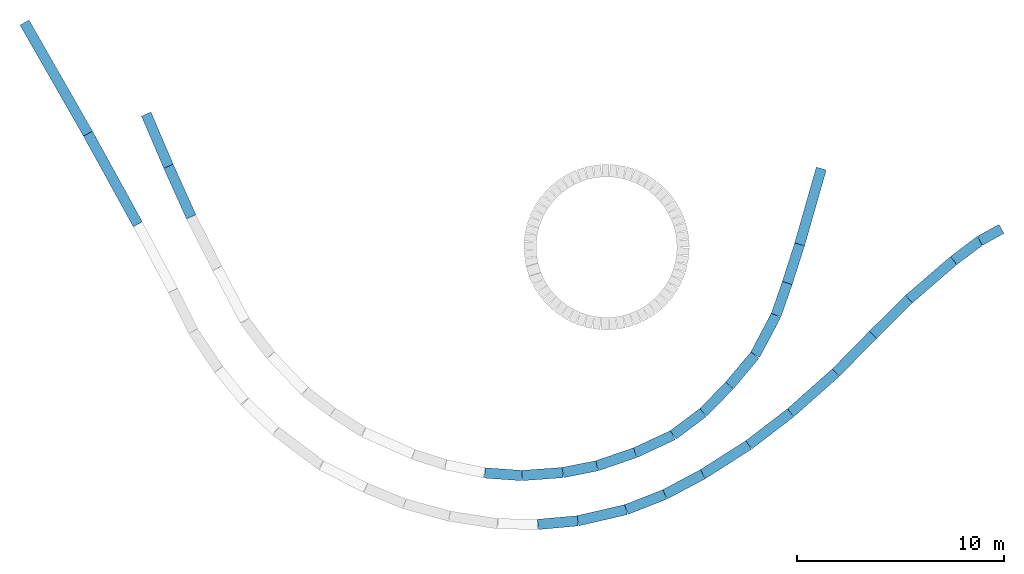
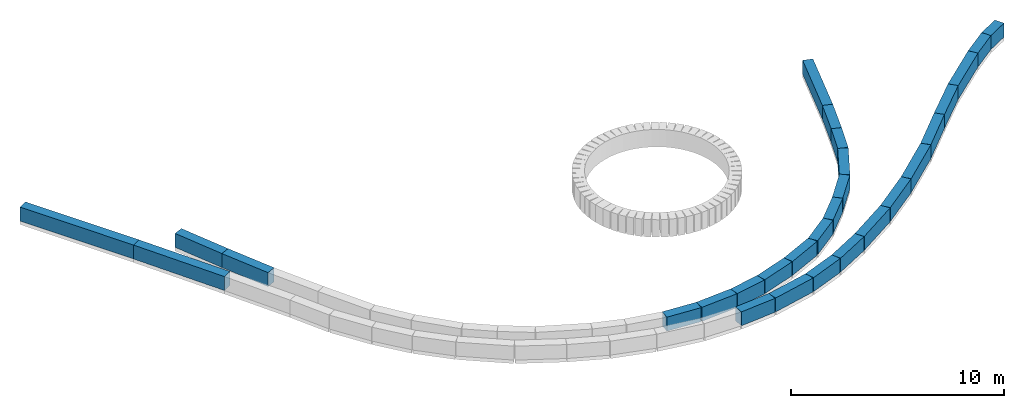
# One storey, part 3 of 3: 28 walls.
"""IFC2X3 building model written with IfcOpenShell, lengths in millimetres."""

from ifc_helpers import new_model, entity, si_unit, converted_unit, direction, origin, origin_with_axes, place, context, project, spatial, faceted_brep, element, save


model = new_model("IFC2X3")

# Units and contexts
model_context = context("Model", 3, precision=1e-05, world=origin(), true_north=direction((0.0, 1.0, 0.0)))
ifc_project = project(units=[si_unit("LENGTHUNIT", "METRE", prefix="MILLI"), si_unit("AREAUNIT", "SQUARE_METRE"), si_unit("VOLUMEUNIT", "CUBIC_METRE"), converted_unit("PLANEANGLEUNIT", "DEGREE", entity("IfcPlaneAngleMeasure", 0.01745), si_unit("PLANEANGLEUNIT", "RADIAN"), dimensions=[0, 0, 0, 0, 0, 0, 0]), si_unit("SOLIDANGLEUNIT", "STERADIAN"), si_unit("MASSUNIT", "GRAM"), si_unit("TIMEUNIT", "SECOND"), si_unit("THERMODYNAMICTEMPERATUREUNIT", "DEGREE_CELSIUS"), si_unit("LUMINOUSINTENSITYUNIT", "LUMEN")], contexts=[model_context])

# Site, building, storey
site_placement = place(None, origin_with_axes())
site = spatial("IfcSite", under=ifc_project, at=site_placement, Name="Default Site", CompositionType="ELEMENT")
building_placement = place(site_placement, origin_with_axes())
building = spatial("IfcBuilding", under=site, at=building_placement, Name="Default Building", CompositionType="ELEMENT")
storey_placement = place(building_placement, origin_with_axes())
storey = spatial("IfcBuildingStorey", under=building, at=storey_placement, Name="Fundação", CompositionType="ELEMENT", Elevation=0.0)

# Walls
wall_1_placement = place(storey_placement, origin_with_axes())
element("IfcWallStandardCase", 1, at=wall_1_placement, inside=storey, Name="IfcWallStandardCase - IfcWallStandardCase - C25 (50)", context=model_context, shape_type="Brep", body=[
    faceted_brep([(-13324.97587996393, 5962.893236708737, -1350.000013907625), (-12247.97585802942, 3437.893260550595, -1350.000013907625), (-12247.97585802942, 3437.893260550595, -2150.000025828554), (-13324.97587996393, 5962.893236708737, -2150.000025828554), (-12707.8868468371, 3241.725195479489, -1350.000013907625), (-12707.8868468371, 3241.725195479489, -2150.000025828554), (-13784.88686877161, 5766.725171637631, -1350.000013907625), (-13784.88686877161, 5766.725171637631, -2150.000025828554)], [[[0, 1, 2]], [[0, 2, 3]], [[1, 4, 5]], [[1, 5, 2]], [[4, 6, 7]], [[4, 7, 5]], [[6, 0, 3]], [[6, 3, 7]], [[2, 5, 7]], [[2, 7, 3]], [[0, 6, 4]], [[0, 4, 1]]]),
])
wall_2_placement = place(storey_placement, origin_with_axes())
element("IfcWallStandardCase", 2, at=wall_2_placement, inside=storey, Name="IfcWallStandardCase - IfcWallStandardCase - C26 (50)", context=model_context, shape_type="Brep", body=[
    faceted_brep([(-12249.50976963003, 3441.396249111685, -1350.000013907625), (-11154.5097410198, 1004.396212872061, -1350.000013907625), (-11154.5097410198, 1004.396212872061, -2150.000025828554), (-12249.50976963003, 3441.396249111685, -2150.000025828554), (-11610.58600540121, 799.4706757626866, -1350.000013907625), (-11610.58600540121, 799.4706757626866, -2150.000025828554), (-12705.58603401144, 3236.47071200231, -1350.000013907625), (-12705.58603401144, 3236.47071200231, -2150.000025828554)], [[[0, 1, 2]], [[0, 2, 3]], [[1, 4, 5]], [[1, 5, 2]], [[4, 6, 7]], [[4, 7, 5]], [[6, 0, 3]], [[6, 3, 7]], [[2, 5, 7]], [[2, 7, 3]], [[0, 6, 4]], [[0, 4, 1]]]),
])
wall_3_placement = place(storey_placement, origin_with_axes())
element("IfcWallStandardCase", 3, at=wall_3_placement, inside=storey, Name="IfcWallStandardCase - IfcWallStandardCase - C36 (50)", context=model_context, shape_type="Brep", body=[
    faceted_brep([(2829.221978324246, -11231.07603361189, -1350.000013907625), (4618.221953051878, -11358.07603766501, -1350.000013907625), (4618.221953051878, -11358.07603766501, -2150.000025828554), (2829.221978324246, -11231.07603361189, -2150.000025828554), (4582.816376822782, -11856.82091285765, -1350.000013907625), (4582.816376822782, -11856.82091285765, -2150.000025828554), (2793.816402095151, -11729.82090880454, -1350.000013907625), (2793.816402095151, -11729.82090880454, -2150.000025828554)], [[[0, 1, 2]], [[0, 2, 3]], [[1, 4, 5]], [[1, 5, 2]], [[4, 6, 7]], [[4, 7, 5]], [[6, 0, 3]], [[6, 3, 7]], [[2, 5, 7]], [[2, 7, 3]], [[0, 6, 4]], [[0, 4, 1]]]),
])
wall_4_placement = place(storey_placement, origin_with_axes())
element("IfcWallStandardCase", 4, at=wall_4_placement, inside=storey, Name="IfcWallStandardCase - IfcWallStandardCase - C45 (50)", context=model_context, shape_type="Brep", body=[
    faceted_brep([(16652.20301712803, -3773.747407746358, -1350.000013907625), (17194.20301656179, -2218.747400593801, -1350.000013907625), (17194.20301656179, -2218.747400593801, -2150.000025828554), (16652.20301712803, -3773.747407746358, -2150.000025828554), (17666.34481514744, -2383.313857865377, -1350.000013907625), (17666.34481514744, -2383.313857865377, -2150.000025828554), (17124.34481571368, -3938.313865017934, -1350.000013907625), (17124.34481571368, -3938.313865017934, -2150.000025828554)], [[[0, 1, 2]], [[0, 2, 3]], [[1, 4, 5]], [[1, 5, 2]], [[4, 6, 7]], [[4, 7, 5]], [[6, 0, 3]], [[6, 3, 7]], [[2, 5, 7]], [[2, 7, 3]], [[0, 6, 4]], [[0, 4, 1]]]),
])
wall_5_placement = place(storey_placement, origin_with_axes())
element("IfcWallStandardCase", 5, at=wall_5_placement, inside=storey, Name="IfcWallStandardCase - IfcWallStandardCase - C39 (50)", context=model_context, shape_type="Brep", body=[
    faceted_brep([(8154.124117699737, -10898.40908544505, -1350.000013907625), (9998.12403997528, -10265.40910648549, -1350.000013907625), (9998.12403997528, -10265.40910648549, -2150.000025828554), (8154.124117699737, -10898.40908544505, -2150.000025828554), (10160.46319088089, -10738.32133608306, -1350.000013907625), (10160.46319088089, -10738.32133608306, -2150.000025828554), (8316.463268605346, -11371.32131504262, -1350.000013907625), (8316.463268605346, -11371.32131504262, -2150.000025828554)], [[[0, 1, 2]], [[0, 2, 3]], [[1, 4, 5]], [[1, 5, 2]], [[4, 6, 7]], [[4, 7, 5]], [[6, 0, 3]], [[6, 3, 7]], [[2, 5, 7]], [[2, 7, 3]], [[0, 6, 4]], [[0, 4, 1]]]),
])
wall_6_placement = place(storey_placement, origin_with_axes())
element("IfcWallStandardCase", 6, at=wall_6_placement, inside=storey, Name="IfcWallStandardCase - IfcWallStandardCase - C37 (50)", context=model_context, shape_type="Brep", body=[
    faceted_brep([(4589.378680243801, -11358.11355692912, -1350.000013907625), (6559.378649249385, -11213.11356110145, -1350.000013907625), (6559.378649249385, -11213.11356110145, -2150.000025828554), (4589.378680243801, -11358.11355692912, -2150.000025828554), (6596.081341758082, -11711.76463348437, -1350.000013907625), (6596.081341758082, -11711.76463348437, -2150.000025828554), (4626.081372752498, -11856.76462931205, -1350.000013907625), (4626.081372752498, -11856.76462931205, -2150.000025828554)], [[[0, 1, 2]], [[0, 2, 3]], [[1, 4, 5]], [[1, 5, 2]], [[4, 6, 7]], [[4, 7, 5]], [[6, 0, 3]], [[6, 3, 7]], [[2, 5, 7]], [[2, 7, 3]], [[0, 6, 4]], [[0, 4, 1]]]),
])
wall_7_placement = place(storey_placement, origin_with_axes())
element("IfcWallStandardCase", 7, at=wall_7_placement, inside=storey, Name="IfcWallStandardCase - IfcWallStandardCase - C38 (50)", context=model_context, shape_type="Brep", body=[
    faceted_brep([(6535.295361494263, -11216.36663684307, -1350.000013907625), (8180.295342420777, -10891.36663386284, -1350.000013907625), (8180.295342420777, -10891.36663386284, -2150.000025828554), (6535.295361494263, -11216.36663684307, -2150.000025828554), (8277.206295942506, -11381.88501009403, -1350.000013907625), (8277.206295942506, -11381.88501009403, -2150.000025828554), (6632.206315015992, -11706.88501307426, -1350.000013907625), (6632.206315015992, -11706.88501307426, -2150.000025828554)], [[[0, 1, 2]], [[0, 2, 3]], [[1, 4, 5]], [[1, 5, 2]], [[4, 6, 7]], [[4, 7, 5]], [[6, 0, 3]], [[6, 3, 7]], [[2, 5, 7]], [[2, 7, 3]], [[0, 6, 4]], [[0, 4, 1]]]),
])
wall_8_placement = place(storey_placement, origin_with_axes())
element("IfcWallStandardCase", 8, at=wall_8_placement, inside=storey, Name="IfcWallStandardCase - IfcWallStandardCase - C40 (50)", context=model_context, shape_type="Brep", body=[
    faceted_brep([(9978.70025553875, -10273.23595391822, -1350.000013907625), (11803.70030322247, -9424.235976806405, -1350.000013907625), (11803.70030322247, -9424.235976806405, -2150.000025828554), (9978.70025553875, -10273.23595391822, -2150.000025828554), (12014.59894099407, -9877.581037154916, -1350.000013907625), (12014.59894099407, -9877.581037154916, -2150.000025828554), (10189.59889331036, -10726.58101426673, -1350.000013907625), (10189.59889331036, -10726.58101426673, -2150.000025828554)], [[[0, 1, 2]], [[0, 2, 3]], [[1, 4, 5]], [[1, 5, 2]], [[4, 6, 7]], [[4, 7, 5]], [[6, 0, 3]], [[6, 3, 7]], [[2, 5, 7]], [[2, 7, 3]], [[0, 6, 4]], [[0, 4, 1]]]),
])
wall_9_placement = place(storey_placement, origin_with_axes())
element("IfcWallStandardCase", 9, at=wall_9_placement, inside=storey, Name="IfcWallStandardCase - IfcWallStandardCase - C47 (50)", context=model_context, shape_type="Brep", body=[
    faceted_brep([(17787.74702469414, -368.6574443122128, -1350.000013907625), (18835.74703256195, 3301.342512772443, -1350.000013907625), (18835.74703256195, 3301.342512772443, -2150.000025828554), (17787.74702469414, -368.6574443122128, -2150.000025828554), (19316.52879635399, 3164.051200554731, -1350.000013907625), (19316.52879635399, 3164.051200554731, -2150.000025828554), (18268.52878848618, -505.9487565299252, -1350.000013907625), (18268.52878848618, -505.9487565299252, -2150.000025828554)], [[[0, 1, 2]], [[0, 2, 3]], [[1, 4, 5]], [[1, 5, 2]], [[4, 6, 7]], [[4, 7, 5]], [[6, 0, 3]], [[6, 3, 7]], [[2, 5, 7]], [[2, 7, 3]], [[0, 6, 4]], [[0, 4, 1]]]),
])
wall_10_placement = place(storey_placement, origin_with_axes())
element("IfcWallStandardCase", 10, at=wall_10_placement, inside=storey, Name="IfcWallStandardCase - IfcWallStandardCase - C41 (50)", context=model_context, shape_type="Brep", body=[
    faceted_brep([(11768.02433357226, -9445.600548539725, -1350.000013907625), (13214.0243135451, -8360.600540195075, -1350.000013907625), (13214.0243135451, -8360.600540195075, -2150.000025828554), (11768.02433357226, -9445.600548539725, -2150.000025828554), (13514.11283836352, -8760.53414658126, -1350.000013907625), (13514.11283836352, -8760.53414658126, -2150.000025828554), (12068.11285839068, -9845.53415492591, -1350.000013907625), (12068.11285839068, -9845.53415492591, -2150.000025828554)], [[[0, 1, 2]], [[0, 2, 3]], [[1, 4, 5]], [[1, 5, 2]], [[4, 6, 7]], [[4, 7, 5]], [[6, 0, 3]], [[6, 3, 7]], [[2, 5, 7]], [[2, 7, 3]], [[0, 6, 4]], [[0, 4, 1]]]),
])
wall_11_placement = place(storey_placement, origin_with_axes())
element("IfcWallStandardCase", 11, at=wall_11_placement, inside=storey, Name="IfcWallStandardCase - IfcWallStandardCase - C44 (50)", context=model_context, shape_type="Brep", body=[
    faceted_brep([(15652.21243733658, -5662.166120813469, -1350.000013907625), (16664.21243185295, -3746.166112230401, -1350.000013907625), (16664.21243185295, -3746.166112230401, -2150.000025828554), (15652.21243733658, -5662.166120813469, -2150.000025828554), (17106.33068913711, -3979.685785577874, -1350.000013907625), (17106.33068913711, -3979.685785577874, -2150.000025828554), (16094.33069462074, -5895.685794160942, -1350.000013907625), (16094.33069462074, -5895.685794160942, -2150.000025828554)], [[[0, 1, 2]], [[0, 2, 3]], [[1, 4, 5]], [[1, 5, 2]], [[4, 6, 7]], [[4, 7, 5]], [[6, 0, 3]], [[6, 3, 7]], [[2, 5, 7]], [[2, 7, 3]], [[0, 6, 4]], [[0, 4, 1]]]),
])
wall_12_placement = place(storey_placement, origin_with_axes())
element("IfcWallStandardCase", 12, at=wall_12_placement, inside=storey, Name="IfcWallStandardCase - IfcWallStandardCase - C43 (50)", context=model_context, shape_type="Brep", body=[
    faceted_brep([(14446.87962937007, -7090.982206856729, -1350.000013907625), (15675.87960171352, -5626.98222020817, -1350.000013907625), (15675.87960171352, -5626.98222020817, -2150.000025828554), (14446.87962937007, -7090.982206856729, -2150.000025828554), (16058.82990765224, -5948.461659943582, -1350.000013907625), (16058.82990765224, -5948.461659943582, -2150.000025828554), (14829.82993530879, -7412.461646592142, -1350.000013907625), (14829.82993530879, -7412.461646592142, -2150.000025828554)], [[[0, 1, 2]], [[0, 2, 3]], [[1, 4, 5]], [[1, 5, 2]], [[4, 6, 7]], [[4, 7, 5]], [[6, 0, 3]], [[6, 3, 7]], [[2, 5, 7]], [[2, 7, 3]], [[0, 6, 4]], [[0, 4, 1]]]),
])
wall_13_placement = place(storey_placement, origin_with_axes())
element("IfcWallStandardCase", 13, at=wall_13_placement, inside=storey, Name="IfcWallStandardCase - IfcWallStandardCase - C42 (50)", context=model_context, shape_type="Brep", body=[
    faceted_brep([(13190.72347358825, -8381.093826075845, -1350.000013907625), (14456.72347621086, -7080.093827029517, -1350.000013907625), (14456.72347621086, -7080.093827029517, -2150.000025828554), (13190.72347358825, -8381.093826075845, -2150.000025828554), (14815.06412700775, -7428.794231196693, -1350.000013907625), (14815.06412700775, -7428.794231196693, -2150.000025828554), (13549.06412438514, -8729.794230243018, -1350.000013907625), (13549.06412438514, -8729.794230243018, -2150.000025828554)], [[[0, 1, 2]], [[0, 2, 3]], [[1, 4, 5]], [[1, 5, 2]], [[4, 6, 7]], [[4, 7, 5]], [[6, 0, 3]], [[6, 3, 7]], [[2, 5, 7]], [[2, 7, 3]], [[0, 6, 4]], [[0, 4, 1]]]),
])
wall_14_placement = place(storey_placement, origin_with_axes())
element("IfcWallStandardCase", 14, at=wall_14_placement, inside=storey, Name="IfcWallStandardCase - IfcWallStandardCase - C46 (50)", context=model_context, shape_type="Brep", body=[
    faceted_brep([(17192.61894178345, -2223.481495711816, -1350.000013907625), (17789.61891856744, -362.4814942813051, -1350.000013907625), (17789.61891856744, -362.4814942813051, -2150.000025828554), (17192.61894178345, -2223.481495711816, -2150.000025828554), (18265.72093915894, -515.2127340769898, -1350.000013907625), (18265.72093915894, -515.2127340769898, -2150.000025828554), (17668.72096237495, -2376.212735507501, -1350.000013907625), (17668.72096237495, -2376.212735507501, -2150.000025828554)], [[[0, 1, 2]], [[0, 2, 3]], [[1, 4, 5]], [[1, 5, 2]], [[4, 6, 7]], [[4, 7, 5]], [[6, 0, 3]], [[6, 3, 7]], [[2, 5, 7]], [[2, 7, 3]], [[0, 6, 4]], [[0, 4, 1]]]),
])
wall_15_placement = place(storey_placement, origin_with_axes())
element("IfcWallStandardCase", 15, at=wall_15_placement, inside=storey, Name="IfcWallStandardCase - IfcWallStandardCase - C85 (50)", context=model_context, shape_type="Brep", body=[
    faceted_brep([(5358.990034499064, -13720.3919056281, -450.0000043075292), (7276.990017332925, -13546.39191063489, -450.0000043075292), (7276.990017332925, -13546.39191063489, -1250.000016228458), (5358.990034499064, -13720.3919056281, -1250.000016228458), (7322.164258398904, -14044.34702428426, -450.0000043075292), (7322.164258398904, -14044.34702428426, -1250.000016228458), (5404.164275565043, -14218.34701927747, -450.0000043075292), (5404.164275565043, -14218.34701927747, -1250.000016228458)], [[[0, 1, 2]], [[0, 2, 3]], [[1, 4, 5]], [[1, 5, 2]], [[4, 6, 7]], [[4, 7, 5]], [[6, 0, 3]], [[6, 3, 7]], [[2, 5, 7]], [[2, 7, 3]], [[0, 6, 4]], [[0, 4, 1]]]),
])
wall_16_placement = place(storey_placement, origin_with_axes())
element("IfcWallStandardCase", 16, at=wall_16_placement, inside=storey, Name="IfcWallStandardCase - IfcWallStandardCase - C72 (50)", context=model_context, shape_type="Brep", body=[
    faceted_brep([(-19222.28364552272, 10412.64000129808, -450.0000043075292), (-16154.28368653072, 5042.639877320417, -450.0000043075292), (-16154.28368653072, 5042.639877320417, -1250.000016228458), (-19222.28364552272, 10412.64000129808, -1250.000016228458), (-16588.4252032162, 4794.605161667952, -450.0000043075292), (-16588.4252032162, 4794.605161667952, -1250.000016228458), (-19656.42516220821, 10164.60528564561, -450.0000043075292), (-19656.42516220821, 10164.60528564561, -1250.000016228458)], [[[0, 1, 2]], [[0, 2, 3]], [[1, 4, 5]], [[1, 5, 2]], [[4, 6, 7]], [[4, 7, 5]], [[6, 0, 3]], [[6, 3, 7]], [[2, 5, 7]], [[2, 7, 3]], [[0, 6, 4]], [[0, 4, 1]]]),
])
wall_17_placement = place(storey_placement, origin_with_axes())
element("IfcWallStandardCase", 17, at=wall_17_placement, inside=storey, Name="IfcWallStandardCase - IfcWallStandardCase - C87 (50)", context=model_context, shape_type="Brep", body=[
    faceted_brep([(9557.987957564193, -13018.40060721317, -450.0000043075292), (11422.98790749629, -12286.40061388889, -450.0000043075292), (11422.98790749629, -12286.40061388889, -1250.000016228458), (9557.987957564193, -13018.40060721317, -1250.000016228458), (11605.66738185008, -12751.83397303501, -450.0000043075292), (11605.66738185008, -12751.83397303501, -1250.000016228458), (9740.667431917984, -13483.83396635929, -450.0000043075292), (9740.667431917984, -13483.83396635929, -1250.000016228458)], [[[0, 1, 2]], [[0, 2, 3]], [[1, 4, 5]], [[1, 5, 2]], [[4, 6, 7]], [[4, 7, 5]], [[6, 0, 3]], [[6, 3, 7]], [[2, 5, 7]], [[2, 7, 3]], [[0, 6, 4]], [[0, 4, 1]]]),
])
wall_18_placement = place(storey_placement, origin_with_axes())
element("IfcWallStandardCase", 18, at=wall_18_placement, inside=storey, Name="IfcWallStandardCase - IfcWallStandardCase - C86 (50)", context=model_context, shape_type="Brep", body=[
    faceted_brep([(7249.935597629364, -13550.7309188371, -450.0000043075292), (9585.935563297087, -13009.73089162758, -450.0000043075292), (9585.935563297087, -13009.73089162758, -1250.000016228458), (7249.935597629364, -13550.7309188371, -1250.000016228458), (9698.745936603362, -13496.8385075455, -450.0000043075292), (9698.745936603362, -13496.8385075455, -1250.000016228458), (7362.745970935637, -14037.83853475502, -450.0000043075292), (7362.745970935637, -14037.83853475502, -1250.000016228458)], [[[0, 1, 2]], [[0, 2, 3]], [[1, 4, 5]], [[1, 5, 2]], [[4, 6, 7]], [[4, 7, 5]], [[6, 0, 3]], [[6, 3, 7]], [[2, 5, 7]], [[2, 7, 3]], [[0, 6, 4]], [[0, 4, 1]]]),
])
wall_19_placement = place(storey_placement, origin_with_axes())
element("IfcWallStandardCase", 19, at=wall_19_placement, inside=storey, Name="IfcWallStandardCase - IfcWallStandardCase - C73 (50)", context=model_context, shape_type="Brep", body=[
    faceted_brep([(-16152.68355238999, 5039.785287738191, -450.0000043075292), (-13746.68359387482, 663.7851217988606, -450.0000043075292), (-13746.68359387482, 663.7851217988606, -1250.000016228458), (-16152.68355238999, 5039.785287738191, -1250.000016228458), (-14184.82535708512, 422.8872278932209, -450.0000043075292), (-14184.82535708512, 422.8872278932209, -1250.000016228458), (-16590.82531560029, 4798.887393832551, -450.0000043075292), (-16590.82531560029, 4798.887393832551, -1250.000016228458)], [[[0, 1, 2]], [[0, 2, 3]], [[1, 4, 5]], [[1, 5, 2]], [[4, 6, 7]], [[4, 7, 5]], [[6, 0, 3]], [[6, 3, 7]], [[2, 5, 7]], [[2, 7, 3]], [[0, 6, 4]], [[0, 4, 1]]]),
])
wall_20_placement = place(storey_placement, origin_with_axes())
element("IfcWallStandardCase", 20, at=wall_20_placement, inside=storey, Name="IfcWallStandardCase - IfcWallStandardCase - C89 (50)", context=model_context, shape_type="Brep", body=[
    faceted_brep([(13219.51711788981, -11327.9483593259, -450.0000043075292), (15433.51710453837, -9915.948388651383, -450.0000043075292), (15433.51710453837, -9915.948388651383, -1250.000016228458), (13219.51711788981, -11327.9483593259, -1250.000016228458), (15702.37362995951, -10337.51234181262, -450.0000043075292), (15702.37362995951, -10337.51234181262, -1250.000016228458), (13488.37364331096, -11749.51231248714, -450.0000043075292), (13488.37364331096, -11749.51231248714, -1250.000016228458)], [[[0, 1, 2]], [[0, 2, 3]], [[1, 4, 5]], [[1, 5, 2]], [[4, 6, 7]], [[4, 7, 5]], [[6, 0, 3]], [[6, 3, 7]], [[2, 5, 7]], [[2, 7, 3]], [[0, 6, 4]], [[0, 4, 1]]]),
])
wall_21_placement = place(storey_placement, origin_with_axes())
element("IfcWallStandardCase", 21, at=wall_21_placement, inside=storey, Name="IfcWallStandardCase - IfcWallStandardCase - C90 (50)", context=model_context, shape_type="Brep", body=[
    faceted_brep([(15419.28443858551, -9925.920904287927, -450.0000043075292), (17441.28445336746, -8373.920918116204, -450.0000043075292), (17441.28445336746, -8373.920918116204, -1250.000016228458), (15419.28443858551, -9925.920904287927, -1250.000016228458), (17745.72262713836, -8770.55352986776, -450.0000043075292), (17745.72262713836, -8770.55352986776, -1250.000016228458), (15723.72261235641, -10322.55351603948, -450.0000043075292), (15723.72261235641, -10322.55351603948, -1250.000016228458)], [[[0, 1, 2]], [[0, 2, 3]], [[1, 4, 5]], [[1, 5, 2]], [[4, 6, 7]], [[4, 7, 5]], [[6, 0, 3]], [[6, 3, 7]], [[2, 5, 7]], [[2, 7, 3]], [[0, 6, 4]], [[0, 4, 1]]]),
])
wall_22_placement = place(storey_placement, origin_with_axes())
element("IfcWallStandardCase", 22, at=wall_22_placement, inside=storey, Name="IfcWallStandardCase - IfcWallStandardCase - C91 (50)", context=model_context, shape_type="Brep", body=[
    faceted_brep([(17430.25937062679, -8383.027737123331, -450.0000043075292), (19609.25939065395, -6448.027734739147, -450.0000043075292), (19609.25939065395, -6448.027734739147, -1250.000016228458), (17430.25937062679, -8383.027737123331, -1250.000016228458), (19941.26024228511, -6821.893279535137, -450.0000043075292), (19941.26024228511, -6821.893279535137, -1250.000016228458), (17762.26022225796, -8756.893281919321, -450.0000043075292), (17762.26022225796, -8756.893281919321, -1250.000016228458)], [[[0, 1, 2]], [[0, 2, 3]], [[1, 4, 5]], [[1, 5, 2]], [[4, 6, 7]], [[4, 7, 5]], [[6, 0, 3]], [[6, 3, 7]], [[2, 5, 7]], [[2, 7, 3]], [[0, 6, 4]], [[0, 4, 1]]]),
])
wall_23_placement = place(storey_placement, origin_with_axes())
element("IfcWallStandardCase", 23, at=wall_23_placement, inside=storey, Name="IfcWallStandardCase - IfcWallStandardCase - C92 (50)", context=model_context, shape_type="Brep", body=[
    faceted_brep([(19599.28026427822, -6457.523818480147, -450.0000043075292), (21395.28032769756, -4626.523788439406, -450.0000043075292), (21395.28032769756, -4626.523788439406, -1250.000016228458), (19599.28026427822, -6457.523818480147, -1250.000016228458), (21752.2288822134, -4976.649160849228, -450.0000043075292), (21752.2288822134, -4976.649160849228, -1250.000016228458), (19956.22881879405, -6807.649190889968, -450.0000043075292), (19956.22881879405, -6807.649190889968, -1250.000016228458)], [[[0, 1, 2]], [[0, 2, 3]], [[1, 4, 5]], [[1, 5, 2]], [[4, 6, 7]], [[4, 7, 5]], [[6, 0, 3]], [[6, 3, 7]], [[2, 5, 7]], [[2, 7, 3]], [[0, 6, 4]], [[0, 4, 1]]]),
])
wall_24_placement = place(storey_placement, origin_with_axes())
element("IfcWallStandardCase", 24, at=wall_24_placement, inside=storey, Name="IfcWallStandardCase - IfcWallStandardCase - C88 (50)", context=model_context, shape_type="Brep", body=[
    faceted_brep([(11401.98209886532, -12296.08203213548, -450.0000043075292), (13232.98212890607, -11320.08205097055, -450.0000043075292), (13232.98212890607, -11320.08205097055, -1250.000016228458), (11401.98209886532, -12296.08203213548, -1250.000016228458), (13468.17615632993, -11761.31184141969, -450.0000043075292), (13468.17615632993, -11761.31184141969, -1250.000016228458), (11637.17612628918, -12737.31182258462, -450.0000043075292), (11637.17612628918, -12737.31182258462, -1250.000016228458)], [[[0, 1, 2]], [[0, 2, 3]], [[1, 4, 5]], [[1, 5, 2]], [[4, 6, 7]], [[4, 7, 5]], [[6, 0, 3]], [[6, 3, 7]], [[2, 5, 7]], [[2, 7, 3]], [[0, 6, 4]], [[0, 4, 1]]]),
])
wall_25_placement = place(storey_placement, origin_with_axes())
element("IfcWallStandardCase", 25, at=wall_25_placement, inside=storey, Name="IfcWallStandardCase - IfcWallStandardCase - C93 (50)", context=model_context, shape_type="Brep", body=[
    faceted_brep([(21397.33315548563, -4624.461247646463, -450.0000043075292), (23140.33312639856, -2898.461296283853, -450.0000043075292), (23140.33312639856, -2898.461296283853, -1250.000016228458), (21397.33315548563, -4624.461247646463, -1250.000016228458), (23492.14960178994, -3253.743006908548, -450.0000043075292), (23492.14960178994, -3253.743006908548, -1250.000016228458), (21749.14963087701, -4979.742958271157, -450.0000043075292), (21749.14963087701, -4979.742958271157, -1250.000016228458)], [[[0, 1, 2]], [[0, 2, 3]], [[1, 4, 5]], [[1, 5, 2]], [[4, 6, 7]], [[4, 7, 5]], [[6, 0, 3]], [[6, 3, 7]], [[2, 5, 7]], [[2, 7, 3]], [[0, 6, 4]], [[0, 4, 1]]]),
])
wall_26_placement = place(storey_placement, origin_with_axes())
element("IfcWallStandardCase", 26, at=wall_26_placement, inside=storey, Name="IfcWallStandardCase - IfcWallStandardCase - C96 (50)", context=model_context, shape_type="Brep", body=[
    faceted_brep([(26619.71458641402, -41.30954880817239, -450.0000043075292), (27665.71456042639, 533.6904765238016, -450.0000043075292), (27665.71456042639, 533.6904765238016, -1250.000016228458), (26619.71458641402, -41.30954880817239, -1250.000016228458), (27906.57743660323, 95.52943866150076, -450.0000043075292), (27906.57743660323, 95.52943866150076, -1250.000016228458), (26860.57746259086, -479.4705866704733, -450.0000043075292), (26860.57746259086, -479.4705866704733, -1250.000016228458)], [[[0, 1, 2]], [[0, 2, 3]], [[1, 4, 5]], [[1, 5, 2]], [[4, 6, 7]], [[4, 7, 5]], [[6, 0, 3]], [[6, 3, 7]], [[2, 5, 7]], [[2, 7, 3]], [[0, 6, 4]], [[0, 4, 1]]]),
])
wall_27_placement = place(storey_placement, origin_with_axes())
element("IfcWallStandardCase", 27, at=wall_27_placement, inside=storey, Name="IfcWallStandardCase - IfcWallStandardCase - C94 (50)", context=model_context, shape_type="Brep", body=[
    faceted_brep([(23150.42334824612, -2889.133764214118, -450.0000043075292), (25312.42328911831, -1024.13381428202, -450.0000043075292), (25312.42328911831, -1024.13381428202, -1250.000016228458), (23150.42334824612, -2889.133764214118, -1250.000016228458), (25639.01430398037, -1402.734232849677, -450.0000043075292), (25639.01430398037, -1402.734232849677, -1250.000016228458), (23477.01436310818, -3267.734182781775, -450.0000043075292), (23477.01436310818, -3267.734182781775, -1250.000016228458)], [[[0, 1, 2]], [[0, 2, 3]], [[1, 4, 5]], [[1, 5, 2]], [[4, 6, 7]], [[4, 7, 5]], [[6, 0, 3]], [[6, 3, 7]], [[2, 5, 7]], [[2, 7, 3]], [[0, 6, 4]], [[0, 4, 1]]]),
])
wall_28_placement = place(storey_placement, origin_with_axes())
element("IfcWallStandardCase", 28, at=wall_28_placement, inside=storey, Name="IfcWallStandardCase - IfcWallStandardCase - C95 (50)", context=model_context, shape_type="Brep", body=[
    faceted_brep([(25322.71865581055, -1015.830307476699, -450.0000043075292), (26595.71868752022, -56.83031605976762, -450.0000043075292), (26595.71868752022, -56.83031605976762, -1250.000016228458), (25322.71865581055, -1015.830307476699, -1250.000016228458), (26896.57131408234, -456.1894230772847, -450.0000043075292), (26896.57131408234, -456.1894230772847, -1250.000016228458), (25623.57128237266, -1415.189414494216, -450.0000043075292), (25623.57128237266, -1415.189414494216, -1250.000016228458)], [[[0, 1, 2]], [[0, 2, 3]], [[1, 4, 5]], [[1, 5, 2]], [[4, 6, 7]], [[4, 7, 5]], [[6, 0, 3]], [[6, 3, 7]], [[2, 5, 7]], [[2, 7, 3]], [[0, 6, 4]], [[0, 4, 1]]]),
])

save(model, "model.ifc")
